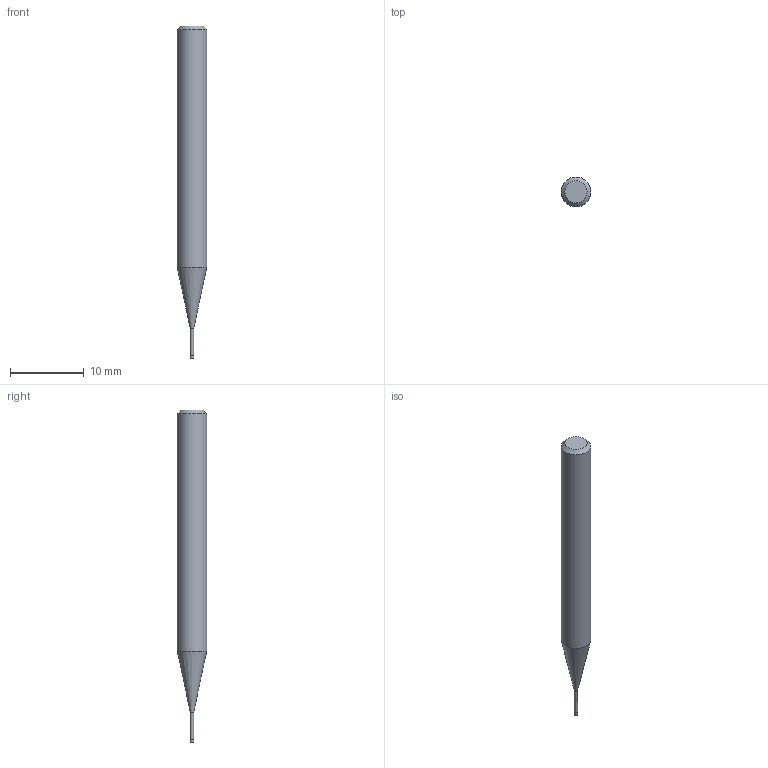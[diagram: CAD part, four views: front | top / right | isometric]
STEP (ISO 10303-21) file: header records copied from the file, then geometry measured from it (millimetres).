
FILE_DESCRIPTION((''),'2;1');
FILE_NAME('C:\Users\nsx150\AppData\Local\Temp\Mastercam 2021\RJ5U8K7RMU\TEMP.step','2021-04-21T16:40:09',(''),(''),'STEP Write','Mastercam 2021 ... CNC Software, Inc.','');
FILE_SCHEMA(('AUTOMOTIVE_DESIGN'));
Length unit declared in the file: millimetre
Products named in the file (1): None
Bounding box: 4 x 4 x 45 mm (x, y, z)
Volume: 449.2 mm3; surface area: 485.2 mm2
Topology: 2 solids, 2 shells, 9 faces, 12 edges, 7 vertices
Faces by surface type: plane 4, cylinder 3, cone 2
Full cylindrical faces by diameter (mm): 0.46 x1, 0.5 x1, 4 x1
Entity records: 211 total; most frequent: DIRECTION 36, CARTESIAN_POINT 25, AXIS2_PLACEMENT_3D 18, ORIENTED_EDGE 14, EDGE_LOOP 14, STYLED_ITEM 12, ADVANCED_FACE 9, FACE_BOUND 8
